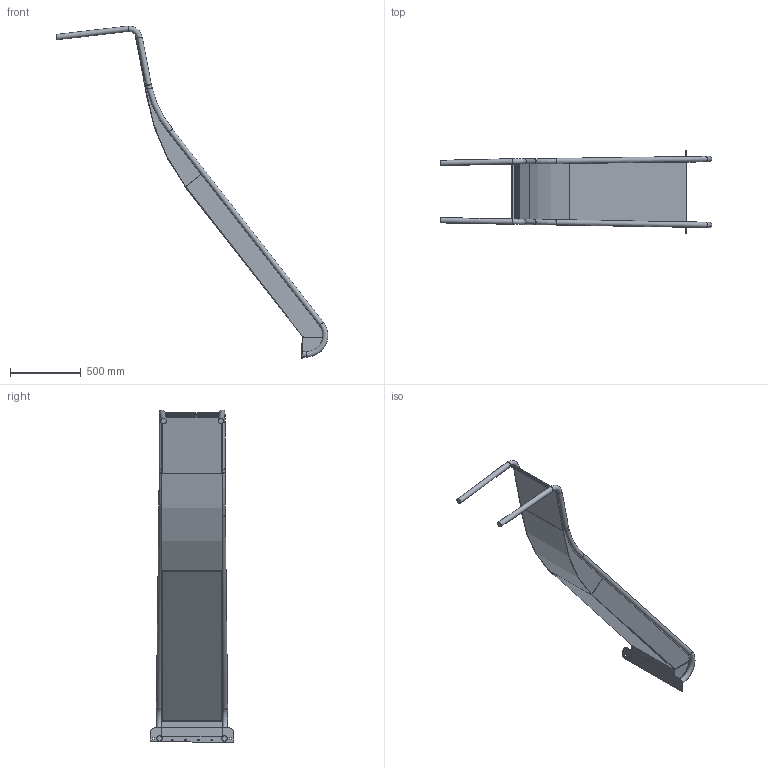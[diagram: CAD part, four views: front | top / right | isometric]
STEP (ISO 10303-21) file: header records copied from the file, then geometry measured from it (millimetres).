
FILE_DESCRIPTION(/* description */ (''),/* implementation_level */ '2;1');
FILE_NAME(/* name */ 'F:\_Inventor\- Tegningsmateriale - kunder\PlayNsafe\PlayNsafe Rutchebaner\100-1400-500 (B500 H1250-1500 uden ører)\100-1400-500.stp',/* time_stamp */ '2026-09-04T11:00:49+02:00',/* author */ ('jm'),/* organization */ (''),/* preprocessor_version */ 'ST-DEVELOPER v18.1',/* originating_system */ 'Autodesk Inventor 2022',/* authorisation */ '');
FILE_SCHEMA (('AUTOMOTIVE_DESIGN { 1 0 10303 214 3 1 1 }'));
Length unit declared in the file: millimetre
Products named in the file (9): 100-1400-500; 100-1400-500 indløb; Rutschebane B50 Øre; Lb2200 venstre; udløb til LB2200 model til step; højre LB2200; bund model til step; 100-1400-500 rør; monterings plade model uden ører
Assembly tree (11 placements, depth 2):
  100-1400-500
    100-1400-500 indløb
    Rutschebane B50 Øre  x2
    Lb2200 venstre  x2
    udløb til LB2200 model til step
    højre LB2200
    bund model til step
    100-1400-500 rør  x2
    monterings plade model uden ører
Bounding box: 1926.99 x 595 x 2354.6 mm (x, y, z)
Volume: 11563557.3 mm3; surface area: 4554574.4 mm2
Topology: 11 solids, 11 shells, 239 faces, 553 edges, 337 vertices
Faces by surface type: plane 153, cylinder 66, bspline 10, torus 6, cone 4
Full cylindrical faces by diameter (mm): 6.5 x4, 38 x12, 38.5 x2
Entity records: 7643 total; most frequent: CARTESIAN_POINT 2494, DIRECTION 1036, ORIENTED_EDGE 968, EDGE_CURVE 484, AXIS2_PLACEMENT_3D 348, LINE 340, VECTOR 340, VERTEX_POINT 291
